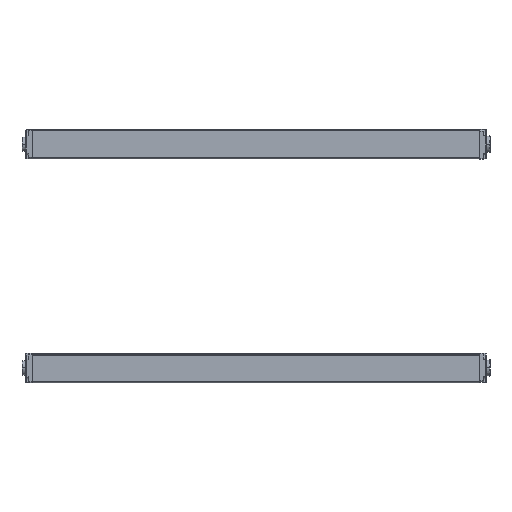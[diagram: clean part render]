
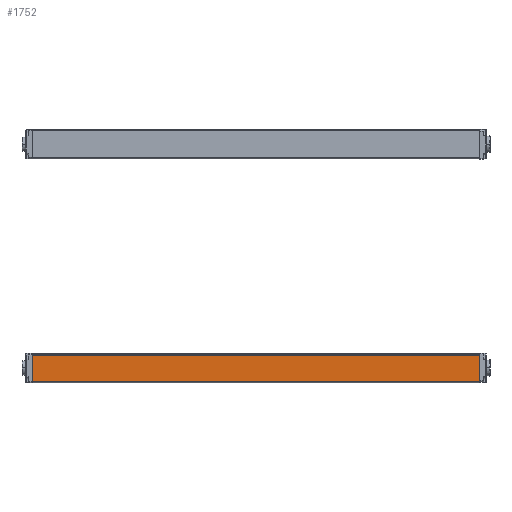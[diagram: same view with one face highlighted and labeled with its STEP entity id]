
A CAD part, left-side view. The second image highlights one B-rep face of the part: STEP entity #1752.
In plain terms, the highlighted planar face has unit normal (-1, 0, -0.009) as drawn and (1, 0, 0) by its records, which use the part's own axes.
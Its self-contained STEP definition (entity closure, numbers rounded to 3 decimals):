
#1277 = CARTESIAN_POINT ( 'NONE',  ( 15., 0., -16.9 ) ) ;
#1752 = ADVANCED_FACE ( 'NONE', ( #17816 ), #5341, .F. ) ;
#2093 = VERTEX_POINT ( 'NONE', #9412 ) ;
#2112 = CARTESIAN_POINT ( 'NONE',  ( 15., 460., -16.693 ) ) ;
#2507 = CARTESIAN_POINT ( 'NONE',  ( 15., 460., 10.9 ) ) ;
#3093 = VERTEX_POINT ( 'NONE', #13049 ) ;
#3334 = EDGE_CURVE ( 'NONE', #2093, #3093, #13754, .T. ) ;
#3982 = DIRECTION ( 'NONE',  ( 0., 0., 1. ) ) ;
#5341 = PLANE ( 'NONE',  #12965 ) ;
#5512 = CARTESIAN_POINT ( 'NONE',  ( 15., 460., -16.9 ) ) ;
#6064 = VECTOR ( 'NONE', #6823, 1000. ) ;
#6823 = DIRECTION ( 'NONE',  ( 0., 0., -1. ) ) ;
#7672 = DIRECTION ( 'NONE',  ( 0., 1., 0. ) ) ;
#8070 = DIRECTION ( 'NONE',  ( 0., -1., 0. ) ) ;
#9412 = CARTESIAN_POINT ( 'NONE',  ( 15., 0., 10.9 ) ) ;
#9910 = CARTESIAN_POINT ( 'NONE',  ( 15., 460., -16.693 ) ) ;
#10920 = CARTESIAN_POINT ( 'NONE',  ( 15., 460., -16.9 ) ) ;
#11088 = DIRECTION ( 'NONE',  ( 0., 0., -1. ) ) ;
#11307 = ORIENTED_EDGE ( 'NONE', *, *, #3334, .T. ) ;
#11608 = VECTOR ( 'NONE', #8070, 1000. ) ;
#11842 = EDGE_LOOP ( 'NONE', ( #11307, #12011, #16042, #14273 ) ) ;
#12011 = ORIENTED_EDGE ( 'NONE', *, *, #14649, .T. ) ;
#12151 = CARTESIAN_POINT ( 'NONE',  ( 15., 460., 10.9 ) ) ;
#12590 = VECTOR ( 'NONE', #11088, 1000. ) ;
#12965 = AXIS2_PLACEMENT_3D ( 'NONE', #10920, #16463, #3982 ) ;
#13049 = CARTESIAN_POINT ( 'NONE',  ( 15., 0., -16.693 ) ) ;
#13754 = LINE ( 'NONE', #1277, #6064 ) ;
#13780 = EDGE_CURVE ( 'NONE', #14238, #2093, #14992, .T. ) ;
#14029 = VECTOR ( 'NONE', #7672, 1000. ) ;
#14238 = VERTEX_POINT ( 'NONE', #12151 ) ;
#14273 = ORIENTED_EDGE ( 'NONE', *, *, #13780, .T. ) ;
#14591 = LINE ( 'NONE', #2112, #14029 ) ;
#14649 = EDGE_CURVE ( 'NONE', #3093, #16769, #14591, .T. ) ;
#14992 = LINE ( 'NONE', #2507, #11608 ) ;
#16042 = ORIENTED_EDGE ( 'NONE', *, *, #16686, .F. ) ;
#16463 = DIRECTION ( 'NONE',  ( -1., 0., 0. ) ) ;
#16686 = EDGE_CURVE ( 'NONE', #14238, #16769, #18002, .T. ) ;
#16769 = VERTEX_POINT ( 'NONE', #9910 ) ;
#17816 = FACE_OUTER_BOUND ( 'NONE', #11842, .T. ) ;
#18002 = LINE ( 'NONE', #5512, #12590 ) ;
